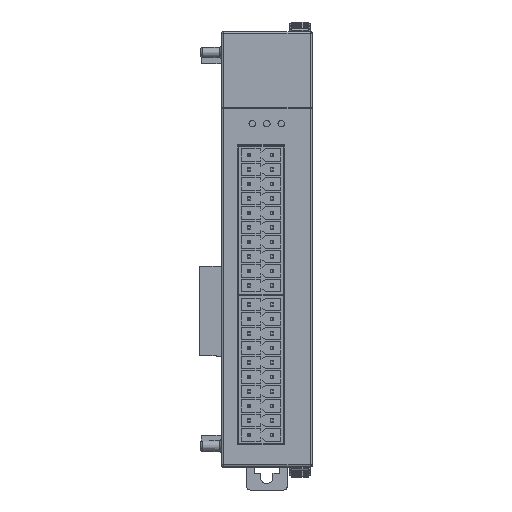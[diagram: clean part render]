
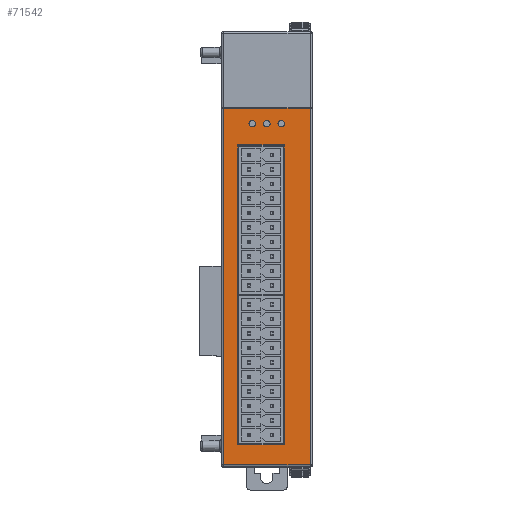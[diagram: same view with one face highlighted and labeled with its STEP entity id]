
A CAD part, top view. The second image highlights one B-rep face of the part: STEP entity #71542.
In plain terms, the highlighted planar face has unit normal (0, 0, 1).
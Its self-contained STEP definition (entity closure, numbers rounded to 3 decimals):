
#49288=DIRECTION('',(1.,0.,0.));
#49289=VECTOR('',#49288,21.);
#49290=CARTESIAN_POINT('',(-10.5,34.,85.));
#49291=LINE('',#49290,#49289);
#49292=DIRECTION('',(0.,1.,0.));
#49293=VECTOR('',#49292,86.);
#49294=CARTESIAN_POINT('',(10.5,-52.,85.));
#49295=LINE('',#49294,#49293);
#49296=DIRECTION('',(1.,0.,0.));
#49297=VECTOR('',#49296,21.);
#49298=CARTESIAN_POINT('',(-10.5,-52.,85.));
#49299=LINE('',#49298,#49297);
#49300=DIRECTION('',(0.,-1.,0.));
#49301=VECTOR('',#49300,86.);
#49302=CARTESIAN_POINT('',(-10.5,34.,85.));
#49303=LINE('',#49302,#49301);
#49304=DIRECTION('',(1.,0.,0.));
#49305=VECTOR('',#49304,11.3);
#49306=CARTESIAN_POINT('',(-7.05,-47.25,85.));
#49307=LINE('',#49306,#49305);
#49308=DIRECTION('',(0.,1.,0.));
#49309=VECTOR('',#49308,72.4);
#49310=CARTESIAN_POINT('',(4.25,-47.25,85.));
#49311=LINE('',#49310,#49309);
#49312=DIRECTION('',(-1.,0.,0.));
#49313=VECTOR('',#49312,11.3);
#49314=CARTESIAN_POINT('',(4.25,25.15,85.));
#49315=LINE('',#49314,#49313);
#49316=DIRECTION('',(0.,-1.,0.));
#49317=VECTOR('',#49316,72.4);
#49318=CARTESIAN_POINT('',(-7.05,25.15,85.));
#49319=LINE('',#49318,#49317);
#49320=CARTESIAN_POINT('',(-3.5,30.3,85.));
#49321=DIRECTION('',(0.,0.,1.));
#49322=DIRECTION('',(1.,0.,0.));
#49323=AXIS2_PLACEMENT_3D('',#49320,#49321,#49322);
#49325=CARTESIAN_POINT('',(-3.5,30.3,85.));
#49326=DIRECTION('',(0.,0.,1.));
#49327=DIRECTION('',(-1.,0.,0.));
#49328=AXIS2_PLACEMENT_3D('',#49325,#49326,#49327);
#49330=CARTESIAN_POINT('',(0.,30.3,85.));
#49331=DIRECTION('',(0.,0.,1.));
#49332=DIRECTION('',(1.,0.,0.));
#49333=AXIS2_PLACEMENT_3D('',#49330,#49331,#49332);
#49335=CARTESIAN_POINT('',(0.,30.3,85.));
#49336=DIRECTION('',(0.,0.,1.));
#49337=DIRECTION('',(-1.,0.,0.));
#49338=AXIS2_PLACEMENT_3D('',#49335,#49336,#49337);
#49340=CARTESIAN_POINT('',(3.5,30.3,85.));
#49341=DIRECTION('',(0.,0.,1.));
#49342=DIRECTION('',(1.,0.,0.));
#49343=AXIS2_PLACEMENT_3D('',#49340,#49341,#49342);
#49345=CARTESIAN_POINT('',(3.5,30.3,85.));
#49346=DIRECTION('',(0.,0.,1.));
#49347=DIRECTION('',(-1.,0.,0.));
#49348=AXIS2_PLACEMENT_3D('',#49345,#49346,#49347);
#66406=CARTESIAN_POINT('',(-10.5,-52.,85.));
#66407=CARTESIAN_POINT('',(10.5,-52.,85.));
#66408=VERTEX_POINT('',#66406);
#66409=VERTEX_POINT('',#66407);
#66424=CARTESIAN_POINT('',(-10.5,34.,85.));
#66425=CARTESIAN_POINT('',(10.5,34.,85.));
#66426=VERTEX_POINT('',#66424);
#66427=VERTEX_POINT('',#66425);
#66650=CARTESIAN_POINT('',(-7.05,-47.25,85.));
#66651=CARTESIAN_POINT('',(4.25,-47.25,85.));
#66652=VERTEX_POINT('',#66650);
#66653=VERTEX_POINT('',#66651);
#66654=CARTESIAN_POINT('',(4.25,25.15,85.));
#66655=VERTEX_POINT('',#66654);
#66656=CARTESIAN_POINT('',(-7.05,25.15,85.));
#66657=VERTEX_POINT('',#66656);
#66658=CARTESIAN_POINT('',(-2.7,30.3,85.));
#66659=CARTESIAN_POINT('',(-4.3,30.3,85.));
#66660=VERTEX_POINT('',#66658);
#66661=VERTEX_POINT('',#66659);
#66662=CARTESIAN_POINT('',(0.8,30.3,85.));
#66663=CARTESIAN_POINT('',(-0.8,30.3,85.));
#66664=VERTEX_POINT('',#66662);
#66665=VERTEX_POINT('',#66663);
#66666=CARTESIAN_POINT('',(4.3,30.3,85.));
#66667=CARTESIAN_POINT('',(2.7,30.3,85.));
#66668=VERTEX_POINT('',#66666);
#66669=VERTEX_POINT('',#66667);
#71499=CARTESIAN_POINT('',(0.,0.,85.));
#71500=DIRECTION('',(0.,0.,1.));
#71501=DIRECTION('',(1.,0.,0.));
#71502=AXIS2_PLACEMENT_3D('',#71499,#71500,#71501);
#71503=PLANE('',#71502);
#71505=ORIENTED_EDGE('',*,*,#71504,.T.);
#71507=ORIENTED_EDGE('',*,*,#71506,.F.);
#71509=ORIENTED_EDGE('',*,*,#71508,.F.);
#71511=ORIENTED_EDGE('',*,*,#71510,.F.);
#71512=EDGE_LOOP('',(#71505,#71507,#71509,#71511));
#71513=FACE_OUTER_BOUND('',#71512,.F.);
#71515=ORIENTED_EDGE('',*,*,#71514,.T.);
#71517=ORIENTED_EDGE('',*,*,#71516,.T.);
#71519=ORIENTED_EDGE('',*,*,#71518,.T.);
#71521=ORIENTED_EDGE('',*,*,#71520,.T.);
#71522=EDGE_LOOP('',(#71515,#71517,#71519,#71521));
#71523=FACE_BOUND('',#71522,.F.);
#71525=ORIENTED_EDGE('',*,*,#71524,.T.);
#71527=ORIENTED_EDGE('',*,*,#71526,.T.);
#71528=EDGE_LOOP('',(#71525,#71527));
#71529=FACE_BOUND('',#71528,.F.);
#71531=ORIENTED_EDGE('',*,*,#71530,.T.);
#71533=ORIENTED_EDGE('',*,*,#71532,.T.);
#71534=EDGE_LOOP('',(#71531,#71533));
#71535=FACE_BOUND('',#71534,.F.);
#71537=ORIENTED_EDGE('',*,*,#71536,.T.);
#71539=ORIENTED_EDGE('',*,*,#71538,.T.);
#71540=EDGE_LOOP('',(#71537,#71539));
#71541=FACE_BOUND('',#71540,.F.);
#71542=ADVANCED_FACE('',(#71513,#71523,#71529,#71535,#71541),#71503,.T.);
#49324=CIRCLE('',#49323,0.8);
#49329=CIRCLE('',#49328,0.8);
#49334=CIRCLE('',#49333,0.8);
#49339=CIRCLE('',#49338,0.8);
#49344=CIRCLE('',#49343,0.8);
#49349=CIRCLE('',#49348,0.8);
#71504=EDGE_CURVE('',#66426,#66427,#49291,.T.);
#71506=EDGE_CURVE('',#66409,#66427,#49295,.T.);
#71508=EDGE_CURVE('',#66408,#66409,#49299,.T.);
#71510=EDGE_CURVE('',#66426,#66408,#49303,.T.);
#71514=EDGE_CURVE('',#66652,#66653,#49307,.T.);
#71516=EDGE_CURVE('',#66653,#66655,#49311,.T.);
#71518=EDGE_CURVE('',#66655,#66657,#49315,.T.);
#71520=EDGE_CURVE('',#66657,#66652,#49319,.T.);
#71524=EDGE_CURVE('',#66660,#66661,#49324,.T.);
#71526=EDGE_CURVE('',#66661,#66660,#49329,.T.);
#71530=EDGE_CURVE('',#66664,#66665,#49334,.T.);
#71532=EDGE_CURVE('',#66665,#66664,#49339,.T.);
#71536=EDGE_CURVE('',#66668,#66669,#49344,.T.);
#71538=EDGE_CURVE('',#66669,#66668,#49349,.T.);
